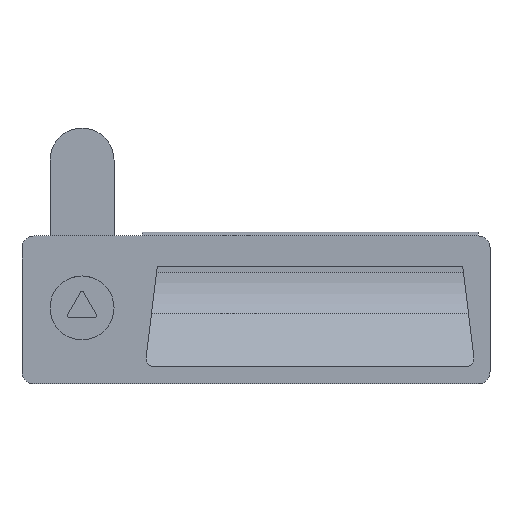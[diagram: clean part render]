
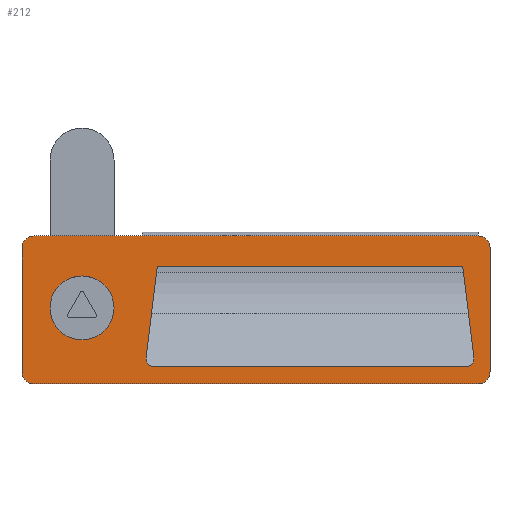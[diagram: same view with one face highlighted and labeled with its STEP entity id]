
A CAD part, top view. The second image highlights one B-rep face of the part: STEP entity #212.
In plain terms, the highlighted planar face has unit normal (0, 0, 1).
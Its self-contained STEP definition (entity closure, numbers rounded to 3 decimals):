
#212 = ADVANCED_FACE( '', ( #354, #355, #356 ), #357, .T. );
#354 = FACE_BOUND( '', #553, .T. );
#355 = FACE_OUTER_BOUND( '', #554, .T. );
#356 = FACE_BOUND( '', #555, .T. );
#357 = PLANE( '', #556 );
#553 = EDGE_LOOP( '', ( #1019 ) );
#554 = EDGE_LOOP( '', ( #1020, #1021, #1022, #1023, #1024, #1025, #1026, #1027 ) );
#555 = EDGE_LOOP( '', ( #1028, #1029, #1030, #1031, #1032, #1033 ) );
#556 = AXIS2_PLACEMENT_3D( '', #1034, #1035, #1036 );
#1019 = ORIENTED_EDGE( '', *, *, #1541, .F. );
#1020 = ORIENTED_EDGE( '', *, *, #1542, .T. );
#1021 = ORIENTED_EDGE( '', *, *, #1543, .T. );
#1022 = ORIENTED_EDGE( '', *, *, #1544, .T. );
#1023 = ORIENTED_EDGE( '', *, *, #1545, .T. );
#1024 = ORIENTED_EDGE( '', *, *, #1546, .T. );
#1025 = ORIENTED_EDGE( '', *, *, #1547, .T. );
#1026 = ORIENTED_EDGE( '', *, *, #1548, .T. );
#1027 = ORIENTED_EDGE( '', *, *, #1549, .T. );
#1028 = ORIENTED_EDGE( '', *, *, #1500, .F. );
#1029 = ORIENTED_EDGE( '', *, *, #1501, .F. );
#1030 = ORIENTED_EDGE( '', *, *, #1491, .F. );
#1031 = ORIENTED_EDGE( '', *, *, #1494, .F. );
#1032 = ORIENTED_EDGE( '', *, *, #1496, .F. );
#1033 = ORIENTED_EDGE( '', *, *, #1498, .F. );
#1034 = CARTESIAN_POINT( '', ( -12., -16., 2. ) );
#1035 = DIRECTION( '', ( 0., 0., 1. ) );
#1036 = DIRECTION( '', ( 1., 0., 0. ) );
#1491 = EDGE_CURVE( '', #1785, #1787, #1788, .T. );
#1494 = EDGE_CURVE( '', #1790, #1785, #1792, .T. );
#1496 = EDGE_CURVE( '', #1793, #1790, #1795, .T. );
#1498 = EDGE_CURVE( '', #1796, #1793, #1798, .T. );
#1500 = EDGE_CURVE( '', #1799, #1796, #1801, .T. );
#1501 = EDGE_CURVE( '', #1787, #1799, #1802, .T. );
#1541 = EDGE_CURVE( '', #1868, #1868, #1869, .T. );
#1542 = EDGE_CURVE( '', #1870, #1871, #1872, .T. );
#1543 = EDGE_CURVE( '', #1871, #1873, #1874, .T. );
#1544 = EDGE_CURVE( '', #1873, #1875, #1876, .T. );
#1545 = EDGE_CURVE( '', #1875, #1877, #1878, .T. );
#1546 = EDGE_CURVE( '', #1877, #1879, #1880, .T. );
#1547 = EDGE_CURVE( '', #1879, #1881, #1882, .T. );
#1548 = EDGE_CURVE( '', #1881, #1883, #1884, .T. );
#1549 = EDGE_CURVE( '', #1883, #1870, #1885, .T. );
#1785 = VERTEX_POINT( '', #2225 );
#1787 = VERTEX_POINT( '', #2228 );
#1788 = LINE( '', #2229, #2230 );
#1790 = VERTEX_POINT( '', #2233 );
#1792 = LINE( '', #2236, #2237 );
#1793 = VERTEX_POINT( '', #2238 );
#1795 = CIRCLE( '', #2241, 2. );
#1796 = VERTEX_POINT( '', #2242 );
#1798 = LINE( '', #2245, #2246 );
#1799 = VERTEX_POINT( '', #2247 );
#1801 = CIRCLE( '', #2250, 2. );
#1802 = LINE( '', #2251, #2252 );
#1868 = VERTEX_POINT( '', #2343 );
#1869 = CIRCLE( '', #2344, 8. );
#1870 = VERTEX_POINT( '', #2345 );
#1871 = VERTEX_POINT( '', #2346 );
#1872 = LINE( '', #2347, #2348 );
#1873 = VERTEX_POINT( '', #2349 );
#1874 = CIRCLE( '', #2350, 3. );
#1875 = VERTEX_POINT( '', #2351 );
#1876 = LINE( '', #2352, #2353 );
#1877 = VERTEX_POINT( '', #2354 );
#1878 = CIRCLE( '', #2355, 3. );
#1879 = VERTEX_POINT( '', #2356 );
#1880 = LINE( '', #2357, #2358 );
#1881 = VERTEX_POINT( '', #2359 );
#1882 = CIRCLE( '', #2360, 3. );
#1883 = VERTEX_POINT( '', #2361 );
#1884 = LINE( '', #2362, #2363 );
#1885 = CIRCLE( '', #2364, 3. );
#2225 = CARTESIAN_POINT( '', ( 95.18, 10.26, 2. ) );
#2228 = CARTESIAN_POINT( '', ( 18.82, 10.26, 2. ) );
#2229 = CARTESIAN_POINT( '', ( 95.18, 10.26, 2. ) );
#2230 = VECTOR( '', #2716, 1000. );
#2233 = CARTESIAN_POINT( '', ( 97.975, -12.496, 2. ) );
#2236 = CARTESIAN_POINT( '', ( 97.975, -12.496, 2. ) );
#2237 = VECTOR( '', #2719, 1000. );
#2238 = CARTESIAN_POINT( '', ( 95.989, -14.74, 2. ) );
#2241 = AXIS2_PLACEMENT_3D( '', #2721, #2722, #2723 );
#2242 = CARTESIAN_POINT( '', ( 18.011, -14.74, 2. ) );
#2245 = CARTESIAN_POINT( '', ( 18.011, -14.74, 2. ) );
#2246 = VECTOR( '', #2725, 1000. );
#2247 = CARTESIAN_POINT( '', ( 16.025, -12.496, 2. ) );
#2250 = AXIS2_PLACEMENT_3D( '', #2727, #2728, #2729 );
#2251 = CARTESIAN_POINT( '', ( 18.82, 10.26, 2. ) );
#2252 = VECTOR( '', #2730, 1000. );
#2343 = CARTESIAN_POINT( '', ( 8., 0., 2. ) );
#2344 = AXIS2_PLACEMENT_3D( '', #2798, #2799, #2800 );
#2345 = CARTESIAN_POINT( '', ( -15., 15., 2. ) );
#2346 = CARTESIAN_POINT( '', ( -15., -16., 2. ) );
#2347 = CARTESIAN_POINT( '', ( -15., 15., 2. ) );
#2348 = VECTOR( '', #2801, 1000. );
#2349 = CARTESIAN_POINT( '', ( -12., -19., 2. ) );
#2350 = AXIS2_PLACEMENT_3D( '', #2802, #2803, #2804 );
#2351 = CARTESIAN_POINT( '', ( 99., -19., 2. ) );
#2352 = CARTESIAN_POINT( '', ( -12., -19., 2. ) );
#2353 = VECTOR( '', #2805, 1000. );
#2354 = CARTESIAN_POINT( '', ( 102., -16., 2. ) );
#2355 = AXIS2_PLACEMENT_3D( '', #2806, #2807, #2808 );
#2356 = CARTESIAN_POINT( '', ( 102., 15., 2. ) );
#2357 = CARTESIAN_POINT( '', ( 102., -16., 2. ) );
#2358 = VECTOR( '', #2809, 1000. );
#2359 = CARTESIAN_POINT( '', ( 99., 18., 2. ) );
#2360 = AXIS2_PLACEMENT_3D( '', #2810, #2811, #2812 );
#2361 = CARTESIAN_POINT( '', ( -12., 18., 2. ) );
#2362 = CARTESIAN_POINT( '', ( 99., 18., 2. ) );
#2363 = VECTOR( '', #2813, 1000. );
#2364 = AXIS2_PLACEMENT_3D( '', #2814, #2815, #2816 );
#2716 = DIRECTION( '', ( -1., 0., 0. ) );
#2719 = DIRECTION( '', ( -0.122, 0.993, 0. ) );
#2721 = CARTESIAN_POINT( '', ( 95.989, -12.74, 2. ) );
#2722 = DIRECTION( '', ( 0., 0., 1. ) );
#2723 = DIRECTION( '', ( 1., 0., 0. ) );
#2725 = DIRECTION( '', ( 1., 0., 0. ) );
#2727 = CARTESIAN_POINT( '', ( 18.011, -12.74, 2. ) );
#2728 = DIRECTION( '', ( 0., 0., 1. ) );
#2729 = DIRECTION( '', ( 1., 0., 0. ) );
#2730 = DIRECTION( '', ( -0.122, -0.993, 0. ) );
#2798 = CARTESIAN_POINT( '', ( 0., 0., 2. ) );
#2799 = DIRECTION( '', ( 0., 0., 1. ) );
#2800 = DIRECTION( '', ( 1., 0., 0. ) );
#2801 = DIRECTION( '', ( 0., -1., 0. ) );
#2802 = CARTESIAN_POINT( '', ( -12., -16., 2. ) );
#2803 = DIRECTION( '', ( 0., 0., 1. ) );
#2804 = DIRECTION( '', ( 1., 0., 0. ) );
#2805 = DIRECTION( '', ( 1., 0., 0. ) );
#2806 = CARTESIAN_POINT( '', ( 99., -16., 2. ) );
#2807 = DIRECTION( '', ( 0., 0., 1. ) );
#2808 = DIRECTION( '', ( 1., 0., 0. ) );
#2809 = DIRECTION( '', ( 0., 1., 0. ) );
#2810 = CARTESIAN_POINT( '', ( 99., 15., 2. ) );
#2811 = DIRECTION( '', ( 0., 0., 1. ) );
#2812 = DIRECTION( '', ( 1., 0., 0. ) );
#2813 = DIRECTION( '', ( -1., 0., 0. ) );
#2814 = CARTESIAN_POINT( '', ( -12., 15., 2. ) );
#2815 = DIRECTION( '', ( 0., 0., 1. ) );
#2816 = DIRECTION( '', ( 1., 0., 0. ) );
